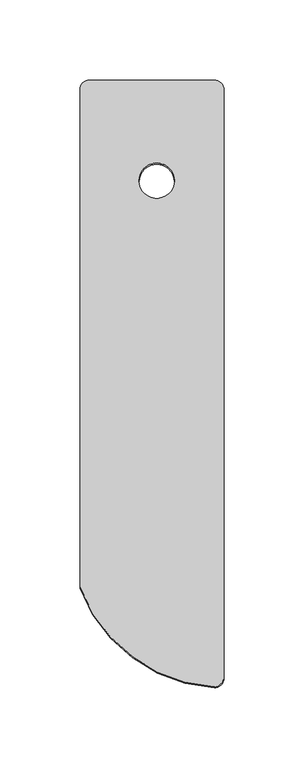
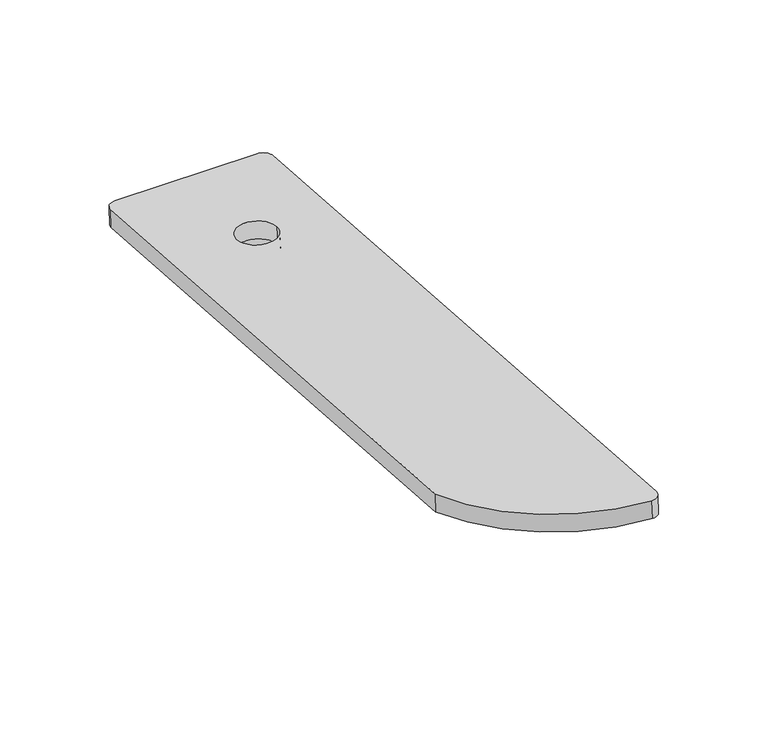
"""IFC4 building model written with IfcOpenShell, lengths in millimetres: proxy geometry, ML PhotonRoof Beaver Anthracite Premium : 0,5X-L."""

from ifc_helpers import new_model, si_unit, point, frame, frame_2d, origin, place, context, project, spatial, polyline, circle_curve, trimmed, segment, composite_curve, outline, extrude, source, transform, mapped, element, save


def specialty_equipment_171a1449(model_context):
    return source(origin(), model_context, "Body", "SweptSolid", [
        extrude(outline(composite_curve([segment(trimmed(circle_curve(frame_2d((311.4065862, -6.0)), 6.0), [point((311.4065862, 0.0))], [point((317.4065861, -6.0))], False, "CARTESIAN"), True, "CONTINUOUS"), segment(polyline([(317.4065861, -6.0), (317.4065861, -84.0)]), True, "CONTINUOUS"), segment(trimmed(circle_curve(frame_2d((311.4065862, -84.0)), 6.0), [point((317.4065861, -84.0))], [point((311.4065862, -90.0))], False, "CARTESIAN"), True, "CONTINUOUS"), segment(polyline([(311.4065862, -90.0), (-56.4057304, -90.0)]), True, "CONTINUOUS"), segment(trimmed(circle_curve(frame_2d((-56.4057304, -84.0)), 6.0), [point((-56.4057304, -90.0))], [point((-62.4057304, -84.0))], False, "CARTESIAN"), True, "CONTINUOUS"), segment(trimmed(circle_curve(frame_2d((33.4065862, -90.0)), 96.0), [point((-62.4057304, -84.0))], [point((0.0, 0.0))], False, "CARTESIAN"), True, "CONTINUOUS"), segment(polyline([(0.0, 0.0), (311.4065862, 0.0)]), True, "CONTINUOUS")], self_intersect=False), holes=[composite_curve([segment(trimmed(circle_curve(frame_2d((254.4065861, -48.0)), 11.0), [point((254.4065861, -37.0))], [point((254.4065861, -59.0))], True, "CARTESIAN"), True, "CONTINUOUS"), segment(trimmed(circle_curve(frame_2d((254.4065861, -48.0)), 11.0), [point((254.4065861, -59.0))], [point((254.4065861, -37.0))], True, "CARTESIAN"), True, "CONTINUOUS")], self_intersect=False)]), frame((-90.0, -253.944877, 18.0218945), z_axis=(0.0, 0.0707897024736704, 0.997491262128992), x_axis=(0.0, 0.997491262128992, -0.0707897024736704)), (0.0, 0.0, 1.0), 10.0),
        extrude(outline(polyline([(44.9032038, 0.0), (44.9032038, -23.75), (-5.0967962, -23.75), (-5.0967962, 0.0), (44.9032038, 0.0)])), frame((-64.9032038, 45.7146537, -17.0859147), z_axis=(0.0, 0.0707897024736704, 0.997491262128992), x_axis=(1.0, 0.0, 0.0)), (0.0, 0.0, 1.0), 13.8069239),
    ])


if __name__ == "__main__":
    model = new_model("IFC4")
    model_context = context("Model", 3, world=origin())
    ifc_project = project(units=[si_unit("LENGTHUNIT", "METRE", prefix="MILLI")], contexts=[model_context])
    site = spatial("IfcSite", under=ifc_project)
    building = spatial("IfcBuilding", under=site)
    placement = place(None, origin())
    specialty_equipment_shape = specialty_equipment_171a1449(model_context)
    element("IfcBuildingElementProxy", 1, Name="ML PhotonRoof Beaver Anthracite Premium : 0,5X-L", ObjectType="ML PhotonRoof Beaver Anthracite Premium : 0,5X-L", at=placement, inside=building, context=model_context, shape_type="MappedRepresentation", body=[
        mapped(specialty_equipment_shape, transform((0.0, 0.0, 0.0), x_axis=(1.0, 0.0, 0.0), y_axis=(0.0, 1.0, 0.0), z_axis=(0.0, 0.0, 1.0))),
    ])
    save(model, "model.ifc")
